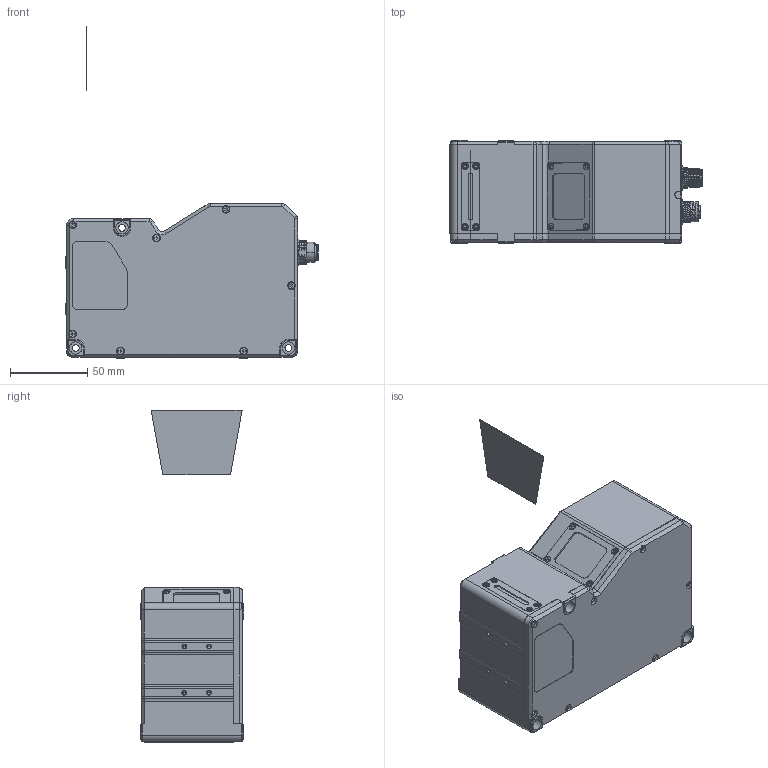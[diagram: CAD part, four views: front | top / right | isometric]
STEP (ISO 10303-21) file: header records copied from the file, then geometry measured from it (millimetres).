
FILE_DESCRIPTION((''),'2;1');
FILE_NAME('DE-30-001649_SW0001','2024-09-09T14:32:56',('duhuaiyuan'),(''),'CREO PARAMETRIC BY PTC INC, 2020044','CREO PARAMETRIC BY PTC INC, 2020044','');
FILE_SCHEMA(('CONFIG_CONTROL_DESIGN'));
Length unit declared in the file: millimetre
Products named in the file (1): DE-30-001649_SW0001
Bounding box: 163.9 x 67 x 215.5 mm (x, y, z)
Surface area: 70913.9 mm2 (no closed solid volume)
Topology: 0 solids, 42 shells, 780 faces, 2467 edges, 1689 vertices
Faces by surface type: plane 295, cylinder 247, cone 152, bspline 44, torus 42
Entity records: 34962 total; most frequent: CARTESIAN_POINT 13909, DIRECTION 4242, ORIENTED_EDGE 4167, EDGE_CURVE 2437, VERTEX_POINT 1689, AXIS2_PLACEMENT_3D 1513, VECTOR 1216, LINE 1216
